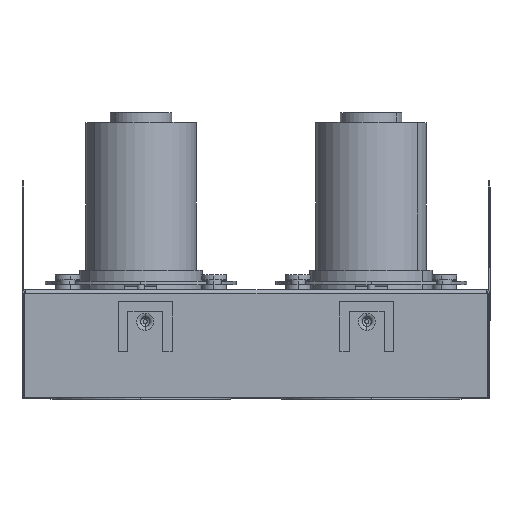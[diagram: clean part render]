
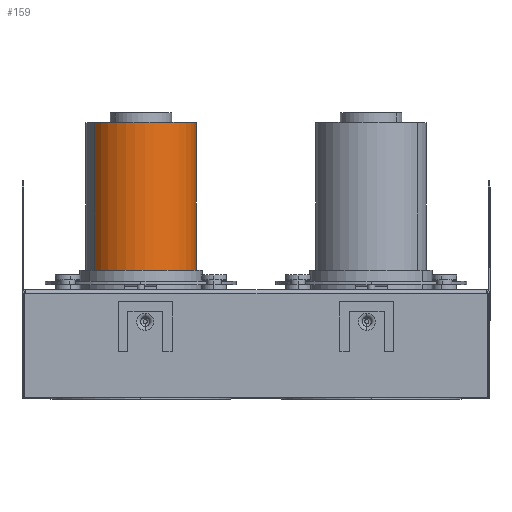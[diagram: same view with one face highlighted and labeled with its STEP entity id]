
A CAD part, top view. The second image highlights one B-rep face of the part: STEP entity #159.
In plain terms, the highlighted cylindrical face has radius 22.5 mm (diameter 45 mm), a partial arc.
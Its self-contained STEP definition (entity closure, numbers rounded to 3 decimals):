
#159 = ADVANCED_FACE ( 'NONE', ( #5959 ), #1450, .T. ) ;
#720 = CIRCLE ( 'NONE', #7769, 22.5 ) ;
#1083 = VERTEX_POINT ( 'NONE', #11534 ) ;
#1450 = CYLINDRICAL_SURFACE ( 'NONE', #11022, 22.5 ) ;
#1924 = CIRCLE ( 'NONE', #6161, 22.5 ) ;
#3148 = EDGE_LOOP ( 'NONE', ( #14103, #4813, #7497, #4443 ) ) ;
#3218 = CARTESIAN_POINT ( 'NONE',  ( 0., 22.3, 22.5 ) ) ;
#3953 = VERTEX_POINT ( 'NONE', #11485 ) ;
#4130 = VERTEX_POINT ( 'NONE', #4697 ) ;
#4443 = ORIENTED_EDGE ( 'NONE', *, *, #11831, .F. ) ;
#4591 = VECTOR ( 'NONE', #13165, 1000. ) ;
#4697 = CARTESIAN_POINT ( 'NONE',  ( 0., 82.3, -22.5 ) ) ;
#4813 = ORIENTED_EDGE ( 'NONE', *, *, #10854, .T. ) ;
#5959 = FACE_OUTER_BOUND ( 'NONE', #3148, .T. ) ;
#6161 = AXIS2_PLACEMENT_3D ( 'NONE', #9593, #9590, #9570 ) ;
#6679 = DIRECTION ( 'NONE',  ( 0., -1., 0. ) ) ;
#6718 = CARTESIAN_POINT ( 'NONE',  ( 0., 82.3, -22.5 ) ) ;
#7497 = ORIENTED_EDGE ( 'NONE', *, *, #11364, .T. ) ;
#7637 = LINE ( 'NONE', #13207, #4591 ) ;
#7769 = AXIS2_PLACEMENT_3D ( 'NONE', #11555, #15190, #15178 ) ;
#8648 = VECTOR ( 'NONE', #6679, 1000. ) ;
#9570 = DIRECTION ( 'NONE',  ( 0., 0., 1. ) ) ;
#9590 = DIRECTION ( 'NONE',  ( 0., 1., 0. ) ) ;
#9593 = CARTESIAN_POINT ( 'NONE',  ( 0., 22.3, 0. ) ) ;
#10586 = EDGE_CURVE ( 'NONE', #3953, #4130, #720, .T. ) ;
#10693 = CARTESIAN_POINT ( 'NONE',  ( 0., 82.3, 0. ) ) ;
#10854 = EDGE_CURVE ( 'NONE', #3953, #12376, #7637, .T. ) ;
#11022 = AXIS2_PLACEMENT_3D ( 'NONE', #10693, #11044, #11200 ) ;
#11044 = DIRECTION ( 'NONE',  ( 0., -1., 0. ) ) ;
#11200 = DIRECTION ( 'NONE',  ( 0., 0., -1. ) ) ;
#11364 = EDGE_CURVE ( 'NONE', #12376, #1083, #1924, .T. ) ;
#11485 = CARTESIAN_POINT ( 'NONE',  ( 0., 82.3, 22.5 ) ) ;
#11534 = CARTESIAN_POINT ( 'NONE',  ( 0., 22.3, -22.5 ) ) ;
#11555 = CARTESIAN_POINT ( 'NONE',  ( 0., 82.3, 0. ) ) ;
#11831 = EDGE_CURVE ( 'NONE', #4130, #1083, #14933, .T. ) ;
#12376 = VERTEX_POINT ( 'NONE', #3218 ) ;
#13165 = DIRECTION ( 'NONE',  ( 0., -1., 0. ) ) ;
#13207 = CARTESIAN_POINT ( 'NONE',  ( 0., 82.3, 22.5 ) ) ;
#14103 = ORIENTED_EDGE ( 'NONE', *, *, #10586, .F. ) ;
#14933 = LINE ( 'NONE', #6718, #8648 ) ;
#15178 = DIRECTION ( 'NONE',  ( 0., 0., 1. ) ) ;
#15190 = DIRECTION ( 'NONE',  ( 0., 1., 0. ) ) ;
